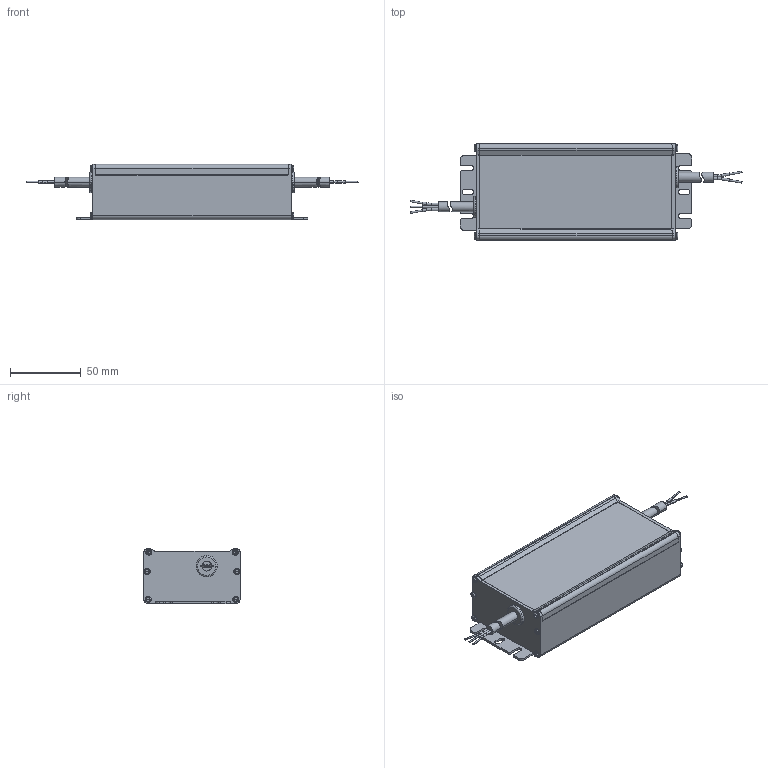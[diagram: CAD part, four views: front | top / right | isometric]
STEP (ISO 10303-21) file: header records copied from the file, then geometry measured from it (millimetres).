
FILE_DESCRIPTION((''),'2;1');
FILE_NAME('15013747Z_DMEC_164X68X39','2020-01-21T15:04:05',('emanuel.wild'),(''),'CREO PARAMETRIC BY PTC INC, 2019164','CREO PARAMETRIC BY PTC INC, 2019164','');
FILE_SCHEMA(('CONFIG_CONTROL_DESIGN'));
Products named in the file (1): 15013747Z_DMEC_164X68X39
Bounding box: 234.9 x 68.05 x 39.05 mm (x, y, z)
Volume: 68596.4 mm3; surface area: 78187.3 mm2
Topology: 3 solids, 3 shells, 1140 faces, 3575 edges, 2326 vertices
Faces by surface type: cylinder 542, plane 391, bspline 143, torus 64
Entity records: 74263 total; most frequent: CARTESIAN_POINT 44969, ORIENTED_EDGE 7150, DIRECTION 4770, EDGE_CURVE 3575, VERTEX_POINT 2326, AXIS2_PLACEMENT_3D 1620, VECTOR 1530, LINE 1530
